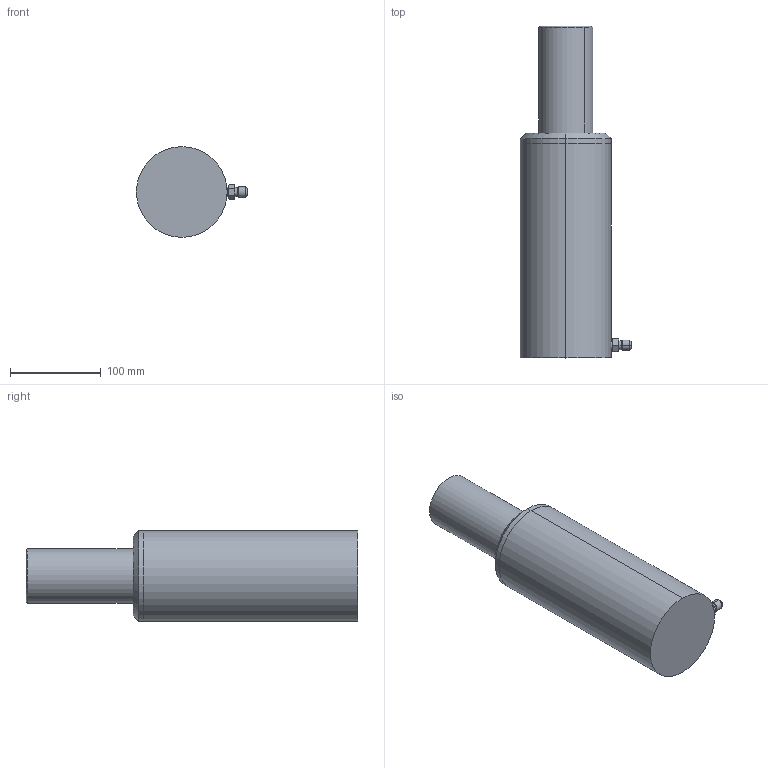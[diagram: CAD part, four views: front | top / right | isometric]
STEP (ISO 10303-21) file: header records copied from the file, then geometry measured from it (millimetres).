
FILE_DESCRIPTION (( 'STEP AP203' ), '1' );
FILE_NAME ('CL_080_S_0125.STEP', '2018-07-12T15:12:44', ( 'Pierluca' ), ( '' ), 'SwSTEP 2.0', 'SolidWorks 2015', '' );
FILE_SCHEMA (( 'CONFIG_CONTROL_DESIGN' ));
Length unit declared in the file: millimetre
Products named in the file (1): CL_080_S_0125
Bounding box: 122.5 x 365.8 x 100 mm (x, y, z)
Volume: 2276644.6 mm3; surface area: 115437.6 mm2
Topology: 1 solids, 1 shells, 46 faces, 94 edges, 54 vertices
Faces by surface type: cone 24, plane 12, cylinder 10
Entity records: 1439 total; most frequent: CARTESIAN_POINT 419, DIRECTION 202, ORIENTED_EDGE 188, EDGE_CURVE 94, AXIS2_PLACEMENT_3D 87, VERTEX_POINT 54, EDGE_LOOP 50, FACE_OUTER_BOUND 46
